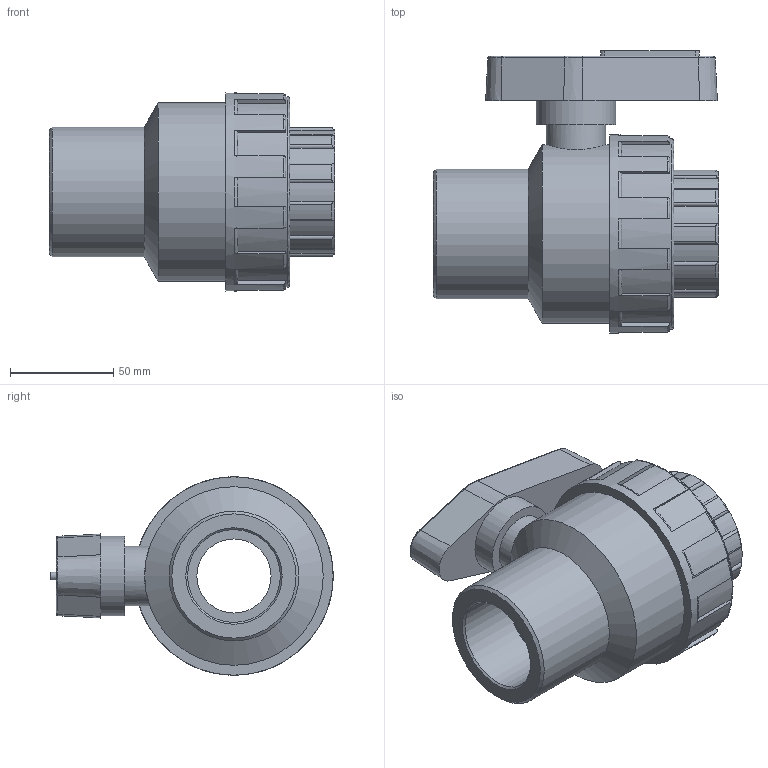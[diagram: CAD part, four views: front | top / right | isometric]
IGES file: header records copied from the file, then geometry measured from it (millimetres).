
Global section: file name: 11351015.ipt; native system: Autodesk Inventor 2015; preprocessor: unknown; author: KIM; date: 20171207.170449; units: millimetre
Bounding box: 138 x 136.58 x 96 mm (x, y, z)
Volume: 555239.5 mm3; surface area: 75180.9 mm2
Topology: 1 solids, 1 shells, 166 faces, 447 edges, 290 vertices
Faces by surface type: plane 64, cylinder 52, revolution 34, cone 16
Full cylindrical faces by diameter (mm): 28.8 x1, 38.4 x1, 62.783 x1, 86.4 x1, 92.16 x1, 96 x1
